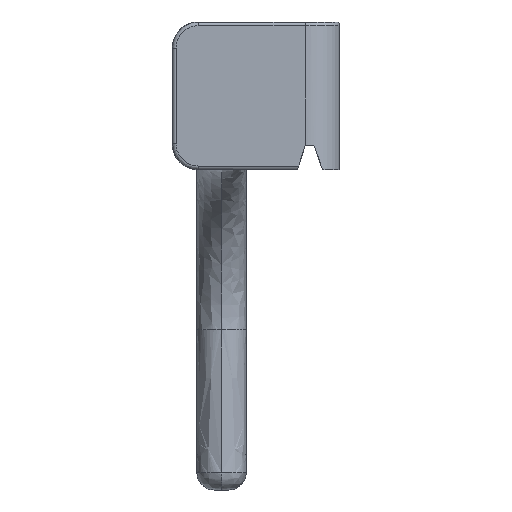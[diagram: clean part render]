
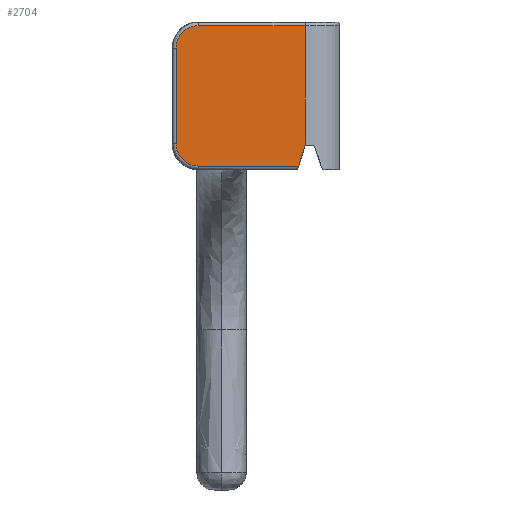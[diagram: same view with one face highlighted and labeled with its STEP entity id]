
A CAD part, front view. The second image highlights one B-rep face of the part: STEP entity #2704.
In plain terms, the highlighted planar face has unit normal (0, -1, 0).
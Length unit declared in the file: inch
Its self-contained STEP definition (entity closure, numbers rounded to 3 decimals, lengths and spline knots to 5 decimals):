
#149=PLANE('',#2881);
#297=LINE('',#6997,#453);
#298=LINE('',#7001,#454);
#299=LINE('',#7010,#455);
#300=LINE('',#7018,#456);
#301=LINE('',#7019,#457);
#453=VECTOR('',#3344,0.3937);
#454=VECTOR('',#3347,0.3937);
#455=VECTOR('',#3348,0.3937);
#456=VECTOR('',#3349,0.3937);
#457=VECTOR('',#3350,0.3937);
#636=FACE_OUTER_BOUND('',#798,.T.);
#798=EDGE_LOOP('',(#2463,#2464,#2465,#2466,#2467,#2468,#2469));
#991=B_SPLINE_CURVE_WITH_KNOTS('',3,(#7003,#7004,#7005,#7006,#7007,#7008),
 .UNSPECIFIED.,.F.,.F.,(4,1,1,4),(-0.71331,-0.40761,
-0.2038,0.),.UNSPECIFIED.);
#992=B_SPLINE_CURVE_WITH_KNOTS('',3,(#7012,#7013,#7014,#7015,#7016,#7017),
 .UNSPECIFIED.,.F.,.F.,(4,1,1,4),(-0.71331,-0.50951,
-0.3057,0.),.UNSPECIFIED.);
#1290=VERTEX_POINT('',#6962);
#1300=VERTEX_POINT('',#6994);
#1301=VERTEX_POINT('',#6999);
#1302=VERTEX_POINT('',#7000);
#1303=VERTEX_POINT('',#7002);
#1304=VERTEX_POINT('',#7009);
#1305=VERTEX_POINT('',#7011);
#1699=EDGE_CURVE('',#1300,#1290,#297,.T.);
#1700=EDGE_CURVE('',#1301,#1302,#298,.T.);
#1701=EDGE_CURVE('',#1303,#1301,#991,.T.);
#1702=EDGE_CURVE('',#1304,#1303,#299,.T.);
#1703=EDGE_CURVE('',#1305,#1304,#992,.T.);
#1704=EDGE_CURVE('',#1300,#1305,#300,.T.);
#1705=EDGE_CURVE('',#1302,#1290,#301,.T.);
#2463=ORIENTED_EDGE('',*,*,#1700,.F.);
#2464=ORIENTED_EDGE('',*,*,#1701,.F.);
#2465=ORIENTED_EDGE('',*,*,#1702,.F.);
#2466=ORIENTED_EDGE('',*,*,#1703,.F.);
#2467=ORIENTED_EDGE('',*,*,#1704,.F.);
#2468=ORIENTED_EDGE('',*,*,#1699,.T.);
#2469=ORIENTED_EDGE('',*,*,#1705,.F.);
#2704=ADVANCED_FACE('',(#636),#149,.T.);
#2881=AXIS2_PLACEMENT_3D('',#6998,#3345,#3346);
#3344=DIRECTION('',(0.3,0.,0.954));
#3345=DIRECTION('center_axis',(0.,-1.,0.));
#3346=DIRECTION('ref_axis',(0.,0.,
-1.));
#3347=DIRECTION('',(1.,0.,0.));
#3348=DIRECTION('',(0.,0.,1.));
#3349=DIRECTION('',(-1.,0.,0.));
#3350=DIRECTION('',(0.,0.,-1.));
#6962=CARTESIAN_POINT('',(0.6717,3.13929,-2.02348));
#6994=CARTESIAN_POINT('',(0.61918,3.13929,-2.19033));
#6997=CARTESIAN_POINT('',(0.74261,3.13929,-1.79815));
#6998=CARTESIAN_POINT('Origin',(-0.19445,3.13929,-1.03923));
#6999=CARTESIAN_POINT('',(-0.18251,3.13929,-1.06923));
#7000=CARTESIAN_POINT('',(0.6717,3.13929,-1.06923));
#7001=CARTESIAN_POINT('',(-0.19445,3.13929,-1.06923));
#7002=CARTESIAN_POINT('',(-0.3613,3.13929,-1.24802));
#7003=CARTESIAN_POINT('Ctrl Pts',(-0.3613,3.13929,-1.24802));
#7004=CARTESIAN_POINT('Ctrl Pts',(-0.3613,3.13929,-1.2079));
#7005=CARTESIAN_POINT('Ctrl Pts',(-0.33784,3.13929,-1.14128));
#7006=CARTESIAN_POINT('Ctrl Pts',(-0.26264,3.13929,-1.08147));
#7007=CARTESIAN_POINT('Ctrl Pts',(-0.20925,3.13929,-1.06923));
#7008=CARTESIAN_POINT('Ctrl Pts',(-0.18251,3.13929,-1.06923));
#7009=CARTESIAN_POINT('',(-0.3613,3.13929,-2.01154));
#7010=CARTESIAN_POINT('',(-0.3613,3.13929,-1.97427));
#7011=CARTESIAN_POINT('',(-0.18251,3.13929,-2.19033));
#7012=CARTESIAN_POINT('Ctrl Pts',(-0.18251,3.13929,-2.19033));
#7013=CARTESIAN_POINT('Ctrl Pts',(-0.20925,3.13929,-2.19033));
#7014=CARTESIAN_POINT('Ctrl Pts',(-0.26264,3.13929,-2.17809));
#7015=CARTESIAN_POINT('Ctrl Pts',(-0.33783,3.13929,-2.11828));
#7016=CARTESIAN_POINT('Ctrl Pts',(-0.3613,3.13929,-2.05166));
#7017=CARTESIAN_POINT('Ctrl Pts',(-0.3613,3.13929,-2.01154));
#7018=CARTESIAN_POINT('',(-0.19445,3.13929,-2.19033));
#7019=CARTESIAN_POINT('',(0.6717,3.13929,-1.3345));
